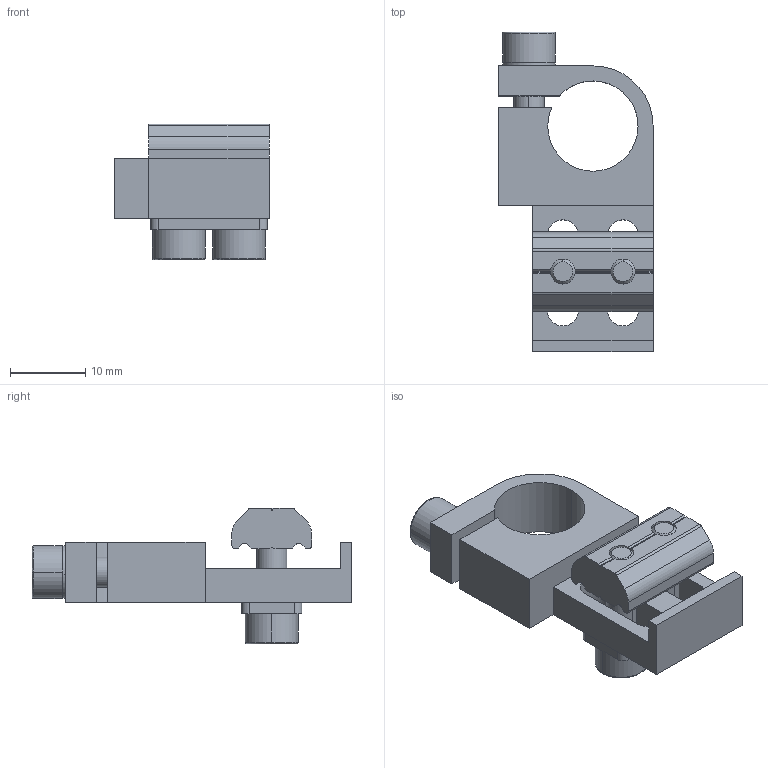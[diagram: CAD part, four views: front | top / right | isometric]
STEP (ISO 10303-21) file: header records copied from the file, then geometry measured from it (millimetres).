
FILE_DESCRIPTION (( 'STEP AP214' ), '1' );
FILE_NAME ('SMBE-1210.STEP', '2022-12-13T07:30:29', ( '' ), ( '' ), 'SwSTEP 2.0', 'SolidWorks 2018', '' );
FILE_SCHEMA (( 'AUTOMOTIVE_DESIGN' ));
Length unit declared in the file: millimetre
Products named in the file (1): SMBE-1210
Bounding box: 20.5 x 42.5 x 18 mm (x, y, z)
Volume: 4545.4 mm3; surface area: 4737.8 mm2
Topology: 7 solids, 7 shells, 345 faces, 970 edges, 640 vertices
Faces by surface type: plane 275, cylinder 58, cone 6, bspline 6
Entity records: 15504 total; most frequent: CARTESIAN_POINT 2520, ORIENTED_EDGE 1940, DIRECTION 1904, EDGE_CURVE 970, VERTEX_POINT 640, AXIS2_PLACEMENT_3D 638, VECTOR 628, LINE 628
